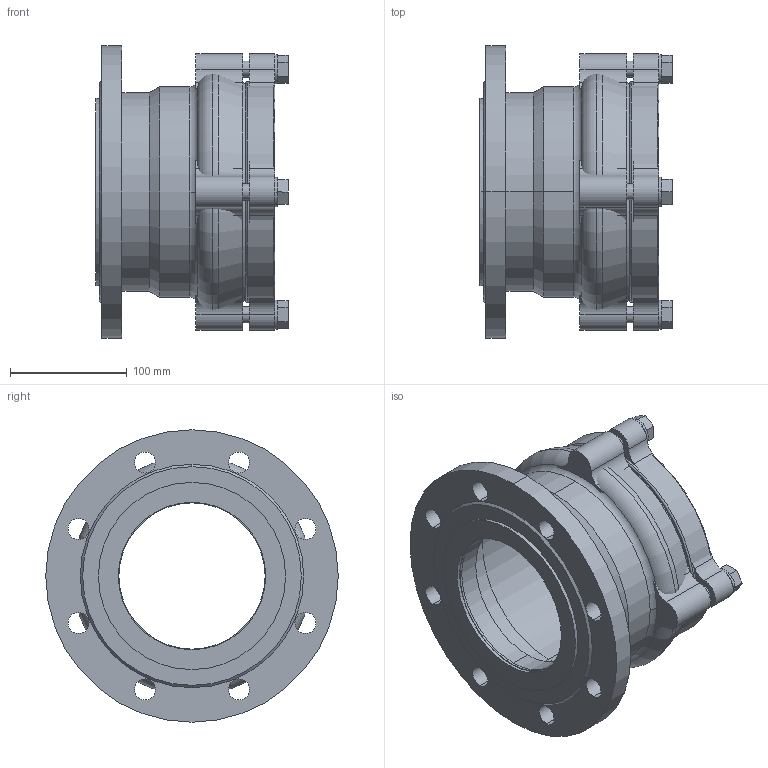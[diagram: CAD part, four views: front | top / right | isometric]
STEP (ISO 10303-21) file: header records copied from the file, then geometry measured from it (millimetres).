
FILE_DESCRIPTION(('STEP AP214'),'1');
FILE_NAME('U:/VDI-Daten/7200-(0400)/7200_PN16_DN125_160.STP','2012-06-15T09:52:07',(' '),(' '),'Spatial InterOp 3D',' ',' ');
FILE_SCHEMA(('automotive_design'));
Length unit declared in the file: millimetre
Products named in the file (26): 3D-Objekt
Bounding box: 164.3 x 250 x 250 mm (x, y, z)
Volume: 1797652.2 mm3; surface area: 487354.9 mm2
Topology: 26 solids, 26 shells, 201 faces, 440 edges, 292 vertices
Faces by surface type: plane 93, cylinder 90, torus 12, cone 6
Entity records: 7870 total; most frequent: DIRECTION 1118, CARTESIAN_POINT 959, ORIENTED_EDGE 880, AXIS2_PLACEMENT_3D 451, EDGE_CURVE 440, VERTEX_POINT 292, EDGE_LOOP 230, STYLED_ITEM 227
